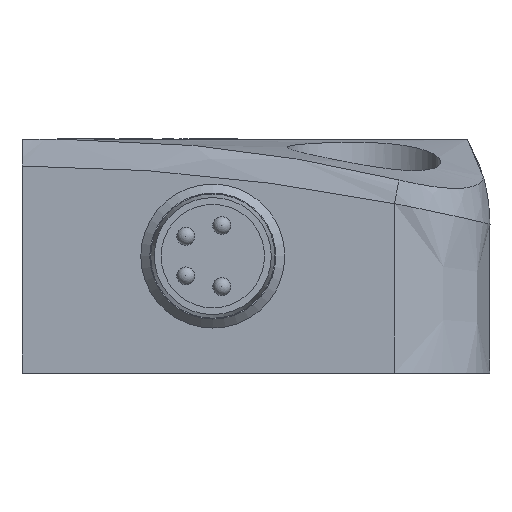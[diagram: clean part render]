
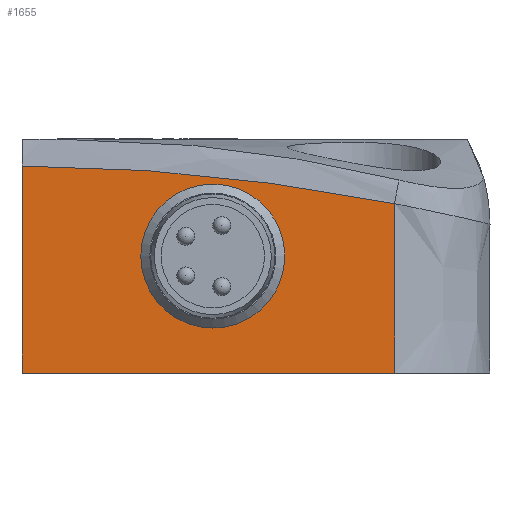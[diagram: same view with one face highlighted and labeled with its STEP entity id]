
A CAD part, left-side view. The second image highlights one B-rep face of the part: STEP entity #1655.
In plain terms, the highlighted planar face has unit normal (-1, 0, 0).
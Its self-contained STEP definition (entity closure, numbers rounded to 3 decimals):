
#38=FACE_BOUND('',#271,.T.);
#81=B_SPLINE_CURVE_WITH_KNOTS('',3,(#2745,#2746,#2747,#2748),
 .UNSPECIFIED.,.F.,.F.,(4,4),(0.,1.),.UNSPECIFIED.);
#126=CIRCLE('',#1758,3.4);
#173=FACE_OUTER_BOUND('',#270,.T.);
#270=EDGE_LOOP('',(#1183,#1184,#1185,#1186));
#271=EDGE_LOOP('',(#1187));
#405=LINE('',#3487,#568);
#409=LINE('',#3545,#572);
#410=LINE('',#3546,#573);
#568=VECTOR('',#1910,1.);
#572=VECTOR('',#1916,1.);
#573=VECTOR('',#1917,10.);
#738=VERTEX_POINT('',#2731);
#739=VERTEX_POINT('',#2744);
#744=VERTEX_POINT('',#3485);
#750=VERTEX_POINT('',#3544);
#751=VERTEX_POINT('',#3547);
#916=EDGE_CURVE('',#738,#739,#81,.T.);
#924=EDGE_CURVE('',#744,#738,#405,.T.);
#932=EDGE_CURVE('',#744,#750,#409,.T.);
#933=EDGE_CURVE('',#750,#739,#410,.F.);
#934=EDGE_CURVE('',#751,#751,#126,.T.);
#1183=ORIENTED_EDGE('',*,*,#916,.F.);
#1184=ORIENTED_EDGE('',*,*,#924,.F.);
#1185=ORIENTED_EDGE('',*,*,#932,.T.);
#1186=ORIENTED_EDGE('',*,*,#933,.T.);
#1187=ORIENTED_EDGE('',*,*,#934,.T.);
#1588=PLANE('',#1757);
#1655=ADVANCED_FACE('',(#173,#38),#1588,.T.);
#1757=AXIS2_PLACEMENT_3D('',#3543,#1914,#1915);
#1758=AXIS2_PLACEMENT_3D('',#3548,#1918,#1919);
#1910=DIRECTION('',(0.,0.,1.));
#1914=DIRECTION('center_axis',(-1.,0.,0.));
#1915=DIRECTION('ref_axis',(0.,0.,1.));
#1916=DIRECTION('',(0.,-1.,0.));
#1917=DIRECTION('',(0.,0.,-1.));
#1918=DIRECTION('center_axis',(1.,0.,0.));
#1919=DIRECTION('ref_axis',(0.,-1.,0.));
#2731=CARTESIAN_POINT('',(-26.754,3.469,3.224));
#2744=CARTESIAN_POINT('',(-26.754,-17.231,1.136));
#2745=CARTESIAN_POINT('Ctrl Pts',(-26.754,3.469,3.224));
#2746=CARTESIAN_POINT('Ctrl Pts',(-26.754,-3.478,3.223));
#2747=CARTESIAN_POINT('Ctrl Pts',(-26.754,-10.413,2.453));
#2748=CARTESIAN_POINT('Ctrl Pts',(-26.754,-17.231,1.136));
#3485=CARTESIAN_POINT('',(-26.754,3.469,-8.276));
#3487=CARTESIAN_POINT('',(-26.754,3.469,-2.151));
#3543=CARTESIAN_POINT('Origin',(-26.754,-6.881,-2.526));
#3544=CARTESIAN_POINT('',(-26.754,-17.231,-8.276));
#3545=CARTESIAN_POINT('',(-26.754,-8.46,-8.276));
#3546=CARTESIAN_POINT('',(-26.754,-17.231,1.136));
#3547=CARTESIAN_POINT('',(-26.754,-10.531,-1.776));
#3548=CARTESIAN_POINT('Origin',(-26.754,-7.131,-1.776));
